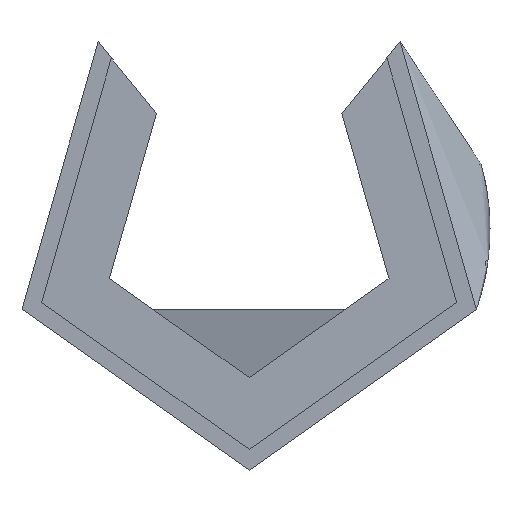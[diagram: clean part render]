
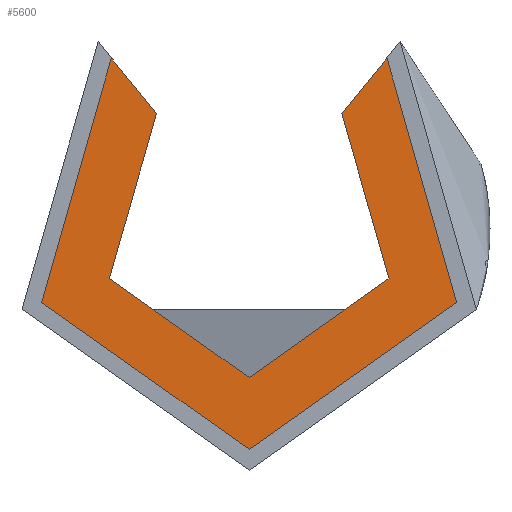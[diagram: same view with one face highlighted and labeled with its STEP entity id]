
A CAD part, left-side view. The second image highlights one B-rep face of the part: STEP entity #5600.
In plain terms, the highlighted planar face has unit normal (-1, 0, 0).
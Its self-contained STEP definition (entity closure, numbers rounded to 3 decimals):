
#123=PLANE('',#6040);
#375=CIRCLE('',#6015,8.);
#388=CIRCLE('',#6041,11.873);
#590=LINE('',#8804,#1071);
#591=LINE('',#8806,#1072);
#1071=VECTOR('',#6681,1000.);
#1072=VECTOR('',#6682,1000.);
#1738=ORIENTED_EDGE('',*,*,#3423,.T.);
#1739=ORIENTED_EDGE('',*,*,#3384,.T.);
#1740=ORIENTED_EDGE('',*,*,#3424,.T.);
#1741=ORIENTED_EDGE('',*,*,#3425,.F.);
#3384=EDGE_CURVE('',#4233,#4234,#375,.F.);
#3423=EDGE_CURVE('',#4259,#4233,#590,.T.);
#3424=EDGE_CURVE('',#4234,#4260,#591,.T.);
#3425=EDGE_CURVE('',#4259,#4260,#388,.T.);
#4233=VERTEX_POINT('',#8727);
#4234=VERTEX_POINT('',#8728);
#4259=VERTEX_POINT('',#8805);
#4260=VERTEX_POINT('',#8807);
#4797=EDGE_LOOP('',(#1738,#1739,#1740,#1741));
#5189=FACE_BOUND('',#4797,.T.);
#5600=ADVANCED_FACE('',(#5189),#123,.T.);
#6015=AXIS2_PLACEMENT_3D('',#8726,#6603,#6604);
#6040=AXIS2_PLACEMENT_3D('',#8803,#6679,#6680);
#6041=AXIS2_PLACEMENT_3D('',#8808,#6683,#6684);
#6603=DIRECTION('',(-1.,0.,0.));
#6604=DIRECTION('',(0.,0.,1.));
#6679=DIRECTION('',(-1.,0.,0.));
#6680=DIRECTION('',(0.,0.,-1.));
#6681=DIRECTION('',(0.,0.629,-0.777));
#6682=DIRECTION('',(0.,0.629,0.777));
#6683=DIRECTION('',(1.,0.,0.));
#6684=DIRECTION('',(0.,0.,-1.));
#8726=CARTESIAN_POINT('',(-16.5,0.,0.));
#8727=CARTESIAN_POINT('',(-16.5,-5.,6.245));
#8728=CARTESIAN_POINT('',(-16.5,5.,6.245));
#8803=CARTESIAN_POINT('',(-16.5,0.,0.));
#8804=CARTESIAN_POINT('',(-16.5,-5.,6.245));
#8805=CARTESIAN_POINT('',(-16.5,-7.438,9.255));
#8806=CARTESIAN_POINT('',(-16.5,5.,6.245));
#8807=CARTESIAN_POINT('',(-16.5,7.438,9.255));
#8808=CARTESIAN_POINT('',(-16.5,0.,0.));
